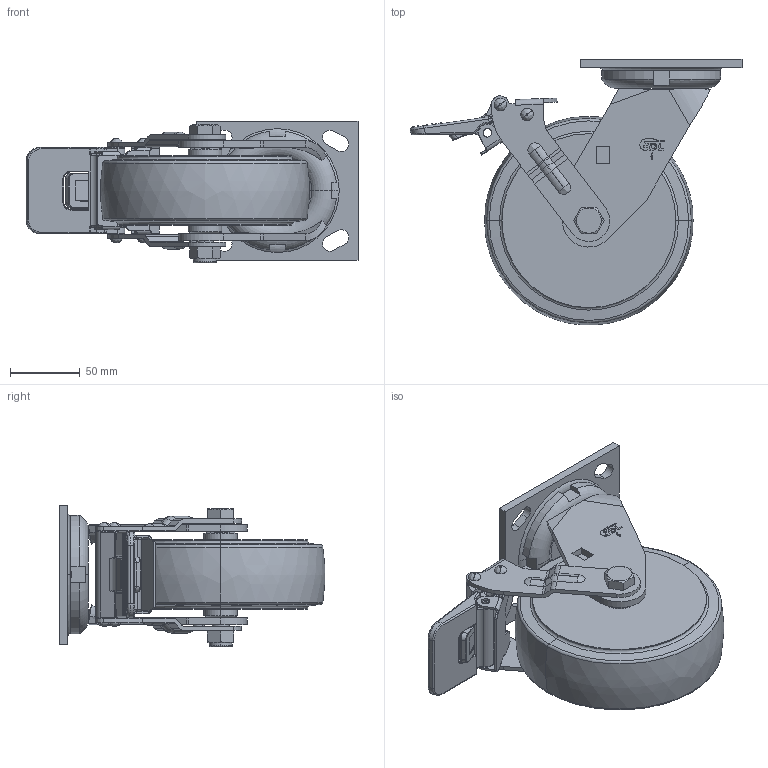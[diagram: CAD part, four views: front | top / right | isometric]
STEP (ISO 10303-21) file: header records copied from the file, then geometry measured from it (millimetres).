
FILE_DESCRIPTION((''),'2;1');
FILE_NAME('73126F-736-86_ASM','2020-12-01T',('lenovo'),(''),'PRO/ENGINEER BY PARAMETRIC TECHNOLOGY CORPORATION, 2010280','PRO/ENGINEER BY PARAMETRIC TECHNOLOGY CORPORATION, 2010280','');
FILE_SCHEMA(('CONFIG_CONTROL_DESIGN'));
Length unit declared in the file: millimetre
Products named in the file (13): 7310-201; 7310-211; 7316-353; 7316-311_ASM; 7316-535; 700-64OFF; 700E-13_; 700-64ON; 736FF_ASM; 736-86; 7010-33-1; 7010-34; 73126F-736-86_ASM
Assembly tree (12 placements, depth 3):
  73126F-736-86_ASM
    7310-201
    7316-311_ASM
      7310-211
      7316-353
    736FF_ASM
      7316-535
      700-64OFF
      700E-13_
      700-64ON
    736-86
    7010-33-1
    7010-34
Bounding box: 238.56 x 190.83 x 102 mm (x, y, z)
Volume: 1120890.5 mm3; surface area: 178439.8 mm2
Topology: 11 solids, 11 shells, 760 faces, 1851 edges, 1134 vertices
Faces by surface type: plane 322, cylinder 248, torus 76, bspline 74, cone 38, sphere 2
Entity records: 26088 total; most frequent: CARTESIAN_POINT 8071, DIRECTION 3733, ORIENTED_EDGE 3702, EDGE_CURVE 1851, AXIS2_PLACEMENT_3D 1360, VERTEX_POINT 1134, VECTOR 1013, LINE 1013
